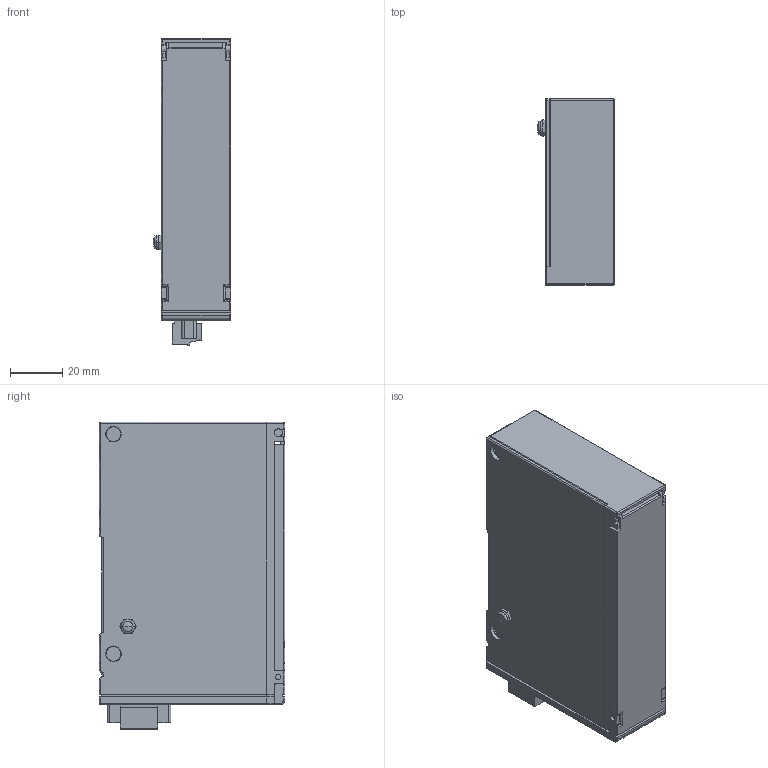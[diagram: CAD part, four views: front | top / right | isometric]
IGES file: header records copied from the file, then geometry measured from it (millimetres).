
Start section: ------------------------------------------------------------------------
Global section: file name: D:\ICADMX\tmp\trans3d_spg\CVICAD02.16560.YS7xL_9016.igs; native system: spGate; preprocessor: ver12.6.6; author: Unknown; organization: Unknown; date: 200901.142642; units: millimetre
Bounding box: 29.6 x 71 x 117.5 mm (x, y, z)
Volume: 195802.6 mm3; surface area: 48519.5 mm2
Topology: 3 solids, 3 shells, 412 faces, 1083 edges, 696 vertices
Faces by surface type: bspline 412
